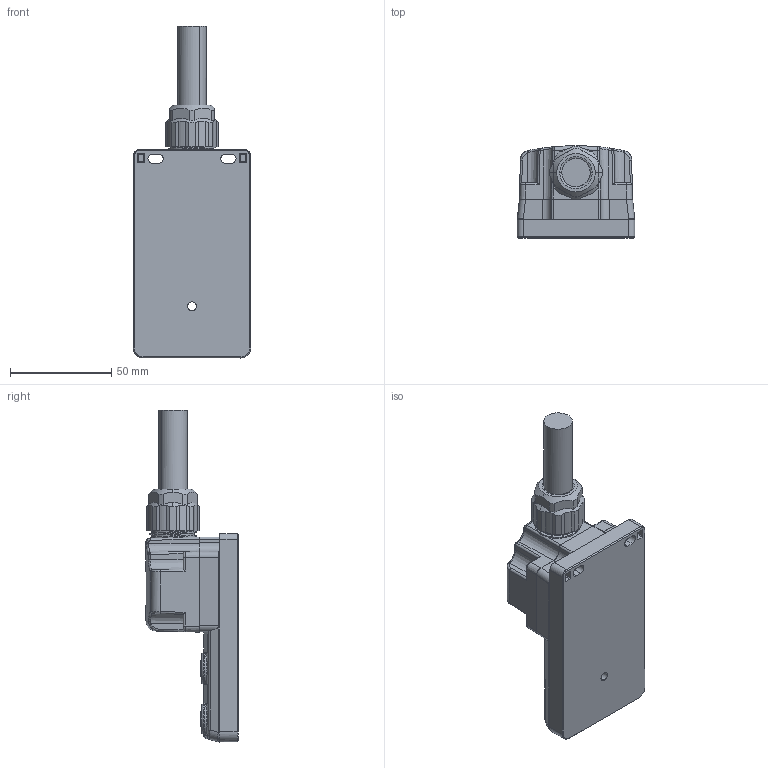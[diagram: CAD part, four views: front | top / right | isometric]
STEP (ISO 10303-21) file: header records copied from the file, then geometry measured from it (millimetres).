
FILE_DESCRIPTION((''),'2;1');
FILE_NAME('24P4S9_ASM','2023-06-27T',('PC'),(''),'PRO/ENGINEER BY PARAMETRIC TECHNOLOGY CORPORATION, 2009220','PRO/ENGINEER BY PARAMETRIC TECHNOLOGY CORPORATION, 2009220','');
FILE_SCHEMA(('CONFIG_CONTROL_DESIGN'));
Length unit declared in the file: millimetre
Products named in the file (5): 24T091; 24P409; ASM0001_ASM; _24P4S9; 24P4S9_ASM
Assembly tree (4 placements, depth 3):
  24P4S9_ASM
    ASM0001_ASM
      24T091
      24P409
    _24P4S9
Bounding box: 58 x 45.6 x 164.07 mm (x, y, z)
Volume: 82072 mm3; surface area: 45377.1 mm2
Topology: 22 solids, 28 shells, 2265 faces, 5993 edges, 3895 vertices
Faces by surface type: plane 1218, cylinder 615, cone 207, torus 142, bspline 71, sphere 12
Entity records: 96064 total; most frequent: CARTESIAN_POINT 40079, ORIENTED_EDGE 11960, DIRECTION 11143, EDGE_CURVE 5989, VERTEX_POINT 3895, VECTOR 3733, LINE 3733, AXIS2_PLACEMENT_3D 3705
